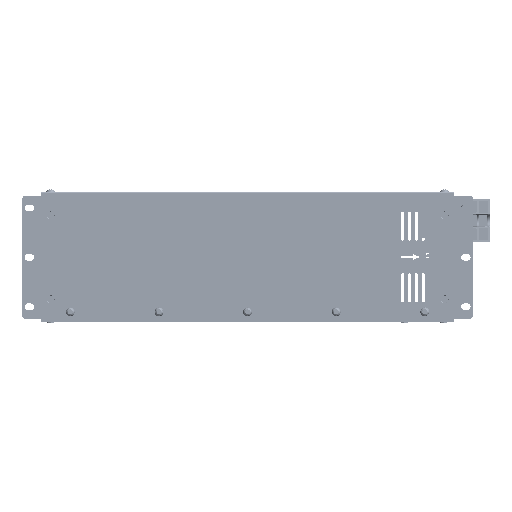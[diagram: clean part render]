
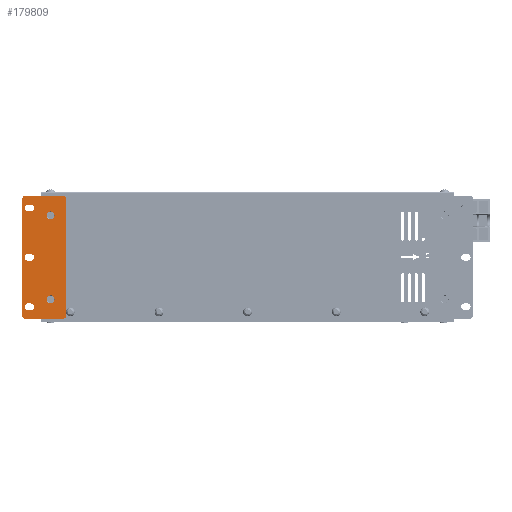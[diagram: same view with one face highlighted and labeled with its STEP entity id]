
A CAD part, top view. The second image highlights one B-rep face of the part: STEP entity #179809.
In plain terms, the highlighted planar face has unit normal (0, 0, 1).
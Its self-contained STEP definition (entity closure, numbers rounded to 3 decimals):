
#6833=FACE_BOUND('',#32945,.T.);
#6834=FACE_BOUND('',#32946,.T.);
#6835=FACE_BOUND('',#32947,.T.);
#6836=FACE_BOUND('',#32948,.T.);
#6837=FACE_BOUND('',#32949,.T.);
#11247=CIRCLE('',#192876,4.);
#11248=CIRCLE('',#192877,4.);
#11249=CIRCLE('',#192878,4.);
#11250=CIRCLE('',#192879,4.);
#11251=CIRCLE('',#192880,4.);
#11252=CIRCLE('',#192881,4.);
#11253=CIRCLE('',#192882,3.3);
#11254=CIRCLE('',#192883,3.3);
#11255=CIRCLE('',#192884,3.3);
#11256=CIRCLE('',#192885,3.3);
#11257=CIRCLE('',#192886,3.3);
#11258=CIRCLE('',#192887,3.3);
#22501=FACE_OUTER_BOUND('',#32944,.T.);
#32944=EDGE_LOOP('',(#154949,#154950,#154951,#154952,#154953,#154954,#154955,
#154956));
#32945=EDGE_LOOP('',(#154957));
#32946=EDGE_LOOP('',(#154958));
#32947=EDGE_LOOP('',(#154959,#154960,#154961,#154962));
#32948=EDGE_LOOP('',(#154963,#154964,#154965,#154966));
#32949=EDGE_LOOP('',(#154967,#154968,#154969,#154970));
#49210=LINE('',#332342,#65485);
#49211=LINE('',#332346,#65486);
#49212=LINE('',#332350,#65487);
#49213=LINE('',#332354,#65488);
#49214=LINE('',#332362,#65489);
#49215=LINE('',#332366,#65490);
#49216=LINE('',#332370,#65491);
#49217=LINE('',#332374,#65492);
#49218=LINE('',#332378,#65493);
#49219=LINE('',#332382,#65494);
#65485=VECTOR('',#235042,10.);
#65486=VECTOR('',#235045,10.);
#65487=VECTOR('',#235048,10.);
#65488=VECTOR('',#235051,10.);
#65489=VECTOR('',#235058,10.);
#65490=VECTOR('',#235061,10.);
#65491=VECTOR('',#235064,10.);
#65492=VECTOR('',#235067,10.);
#65493=VECTOR('',#235070,10.);
#65494=VECTOR('',#235073,10.);
#81475=VERTEX_POINT('',#332340);
#81476=VERTEX_POINT('',#332341);
#81477=VERTEX_POINT('',#332343);
#81478=VERTEX_POINT('',#332345);
#81479=VERTEX_POINT('',#332347);
#81480=VERTEX_POINT('',#332349);
#81481=VERTEX_POINT('',#332351);
#81482=VERTEX_POINT('',#332353);
#81483=VERTEX_POINT('',#332356);
#81484=VERTEX_POINT('',#332358);
#81485=VERTEX_POINT('',#332360);
#81486=VERTEX_POINT('',#332361);
#81487=VERTEX_POINT('',#332363);
#81488=VERTEX_POINT('',#332365);
#81489=VERTEX_POINT('',#332368);
#81490=VERTEX_POINT('',#332369);
#81491=VERTEX_POINT('',#332371);
#81492=VERTEX_POINT('',#332373);
#81493=VERTEX_POINT('',#332376);
#81494=VERTEX_POINT('',#332377);
#81495=VERTEX_POINT('',#332379);
#81496=VERTEX_POINT('',#332381);
#106028=EDGE_CURVE('',#81475,#81476,#49210,.T.);
#106029=EDGE_CURVE('',#81476,#81477,#11247,.T.);
#106030=EDGE_CURVE('',#81477,#81478,#49211,.T.);
#106031=EDGE_CURVE('',#81478,#81479,#11248,.T.);
#106032=EDGE_CURVE('',#81479,#81480,#49212,.T.);
#106033=EDGE_CURVE('',#81480,#81481,#11249,.T.);
#106034=EDGE_CURVE('',#81481,#81482,#49213,.T.);
#106035=EDGE_CURVE('',#81482,#81475,#11250,.T.);
#106036=EDGE_CURVE('',#81483,#81483,#11251,.T.);
#106037=EDGE_CURVE('',#81484,#81484,#11252,.T.);
#106038=EDGE_CURVE('',#81485,#81486,#49214,.T.);
#106039=EDGE_CURVE('',#81486,#81487,#11253,.T.);
#106040=EDGE_CURVE('',#81487,#81488,#49215,.T.);
#106041=EDGE_CURVE('',#81488,#81485,#11254,.T.);
#106042=EDGE_CURVE('',#81489,#81490,#49216,.T.);
#106043=EDGE_CURVE('',#81490,#81491,#11255,.T.);
#106044=EDGE_CURVE('',#81491,#81492,#49217,.T.);
#106045=EDGE_CURVE('',#81492,#81489,#11256,.T.);
#106046=EDGE_CURVE('',#81493,#81494,#49218,.T.);
#106047=EDGE_CURVE('',#81494,#81495,#11257,.T.);
#106048=EDGE_CURVE('',#81495,#81496,#49219,.T.);
#106049=EDGE_CURVE('',#81496,#81493,#11258,.T.);
#154949=ORIENTED_EDGE('',*,*,#106028,.T.);
#154950=ORIENTED_EDGE('',*,*,#106029,.T.);
#154951=ORIENTED_EDGE('',*,*,#106030,.T.);
#154952=ORIENTED_EDGE('',*,*,#106031,.T.);
#154953=ORIENTED_EDGE('',*,*,#106032,.T.);
#154954=ORIENTED_EDGE('',*,*,#106033,.T.);
#154955=ORIENTED_EDGE('',*,*,#106034,.T.);
#154956=ORIENTED_EDGE('',*,*,#106035,.T.);
#154957=ORIENTED_EDGE('',*,*,#106036,.T.);
#154958=ORIENTED_EDGE('',*,*,#106037,.T.);
#154959=ORIENTED_EDGE('',*,*,#106038,.T.);
#154960=ORIENTED_EDGE('',*,*,#106039,.T.);
#154961=ORIENTED_EDGE('',*,*,#106040,.T.);
#154962=ORIENTED_EDGE('',*,*,#106041,.T.);
#154963=ORIENTED_EDGE('',*,*,#106042,.T.);
#154964=ORIENTED_EDGE('',*,*,#106043,.T.);
#154965=ORIENTED_EDGE('',*,*,#106044,.T.);
#154966=ORIENTED_EDGE('',*,*,#106045,.T.);
#154967=ORIENTED_EDGE('',*,*,#106046,.T.);
#154968=ORIENTED_EDGE('',*,*,#106047,.T.);
#154969=ORIENTED_EDGE('',*,*,#106048,.T.);
#154970=ORIENTED_EDGE('',*,*,#106049,.T.);
#161251=PLANE('',#192875);
#179809=ADVANCED_FACE('',(#22501,#6833,#6834,#6835,#6836,#6837),#161251,
 .T.);
#192875=AXIS2_PLACEMENT_3D('',#332339,#235040,#235041);
#192876=AXIS2_PLACEMENT_3D('',#332344,#235043,#235044);
#192877=AXIS2_PLACEMENT_3D('',#332348,#235046,#235047);
#192878=AXIS2_PLACEMENT_3D('',#332352,#235049,#235050);
#192879=AXIS2_PLACEMENT_3D('',#332355,#235052,#235053);
#192880=AXIS2_PLACEMENT_3D('',#332357,#235054,#235055);
#192881=AXIS2_PLACEMENT_3D('',#332359,#235056,#235057);
#192882=AXIS2_PLACEMENT_3D('',#332364,#235059,#235060);
#192883=AXIS2_PLACEMENT_3D('',#332367,#235062,#235063);
#192884=AXIS2_PLACEMENT_3D('',#332372,#235065,#235066);
#192885=AXIS2_PLACEMENT_3D('',#332375,#235068,#235069);
#192886=AXIS2_PLACEMENT_3D('',#332380,#235071,#235072);
#192887=AXIS2_PLACEMENT_3D('',#332383,#235074,#235075);
#235040=DIRECTION('center_axis',(0.,0.,
1.));
#235041=DIRECTION('ref_axis',(0.,1.,0.));
#235042=DIRECTION('',(1.,0.,0.));
#235043=DIRECTION('center_axis',(0.,0.,
1.));
#235044=DIRECTION('ref_axis',(0.,-1.,0.));
#235045=DIRECTION('',(0.,1.,0.));
#235046=DIRECTION('center_axis',(0.,0.,
1.));
#235047=DIRECTION('ref_axis',(1.,0.,0.));
#235048=DIRECTION('',(-1.,0.,0.));
#235049=DIRECTION('center_axis',(0.,0.,
1.));
#235050=DIRECTION('ref_axis',(0.,1.,0.));
#235051=DIRECTION('',(0.,-1.,0.));
#235052=DIRECTION('center_axis',(0.,0.,
1.));
#235053=DIRECTION('ref_axis',(-1.,0.,0.));
#235054=DIRECTION('center_axis',(0.,0.,
-1.));
#235055=DIRECTION('ref_axis',(1.,0.,0.));
#235056=DIRECTION('center_axis',(0.,0.,
-1.));
#235057=DIRECTION('ref_axis',(1.,0.,0.));
#235058=DIRECTION('',(-1.,0.,0.));
#235059=DIRECTION('center_axis',(0.,0.,
-1.));
#235060=DIRECTION('ref_axis',(0.,-1.,0.));
#235061=DIRECTION('',(1.,0.,0.));
#235062=DIRECTION('center_axis',(0.,0.,
-1.));
#235063=DIRECTION('ref_axis',(0.,1.,0.));
#235064=DIRECTION('',(-1.,0.,0.));
#235065=DIRECTION('center_axis',(0.,0.,
-1.));
#235066=DIRECTION('ref_axis',(0.,-1.,0.));
#235067=DIRECTION('',(1.,0.,0.));
#235068=DIRECTION('center_axis',(0.,0.,
-1.));
#235069=DIRECTION('ref_axis',(0.,1.,0.));
#235070=DIRECTION('',(-1.,0.,0.));
#235071=DIRECTION('center_axis',(0.,0.,
-1.));
#235072=DIRECTION('ref_axis',(0.,-1.,0.));
#235073=DIRECTION('',(1.,0.,0.));
#235074=DIRECTION('center_axis',(0.,0.,
-1.));
#235075=DIRECTION('ref_axis',(0.,1.,0.));
#332339=CARTESIAN_POINT('Origin',(-295.526,-2.226,125.5));
#332340=CARTESIAN_POINT('',(-314.026,-64.726,125.5));
#332341=CARTESIAN_POINT('',(-277.026,-64.726,125.5));
#332342=CARTESIAN_POINT('',(-314.026,-64.726,125.5));
#332343=CARTESIAN_POINT('',(-273.026,-60.726,125.5));
#332344=CARTESIAN_POINT('Origin',(-277.026,-60.726,125.5));
#332345=CARTESIAN_POINT('',(-273.026,56.274,125.5));
#332346=CARTESIAN_POINT('',(-273.026,-60.726,125.5));
#332347=CARTESIAN_POINT('',(-277.026,60.274,125.5));
#332348=CARTESIAN_POINT('Origin',(-277.026,56.274,125.5));
#332349=CARTESIAN_POINT('',(-314.026,60.274,125.5));
#332350=CARTESIAN_POINT('',(-277.026,60.274,125.5));
#332351=CARTESIAN_POINT('',(-318.026,56.274,125.5));
#332352=CARTESIAN_POINT('Origin',(-314.026,56.274,125.5));
#332353=CARTESIAN_POINT('',(-318.026,-60.726,125.5));
#332354=CARTESIAN_POINT('',(-318.026,56.274,125.5));
#332355=CARTESIAN_POINT('Origin',(-314.026,-60.726,125.5));
#332356=CARTESIAN_POINT('',(-293.026,-44.726,125.5));
#332357=CARTESIAN_POINT('Origin',(-289.026,-44.726,125.5));
#332358=CARTESIAN_POINT('',(-293.026,40.274,125.5));
#332359=CARTESIAN_POINT('Origin',(-289.026,40.274,125.5));
#332360=CARTESIAN_POINT('',(-309.026,44.474,125.5));
#332361=CARTESIAN_POINT('',(-312.026,44.474,125.5));
#332362=CARTESIAN_POINT('',(-309.026,44.474,125.5));
#332363=CARTESIAN_POINT('',(-312.026,51.074,125.5));
#332364=CARTESIAN_POINT('Origin',(-312.026,47.774,125.5));
#332365=CARTESIAN_POINT('',(-309.026,51.074,125.5));
#332366=CARTESIAN_POINT('',(-312.026,51.074,125.5));
#332367=CARTESIAN_POINT('Origin',(-309.026,47.774,125.5));
#332368=CARTESIAN_POINT('',(-309.026,-5.526,125.5));
#332369=CARTESIAN_POINT('',(-312.026,-5.526,125.5));
#332370=CARTESIAN_POINT('',(-309.026,-5.526,125.5));
#332371=CARTESIAN_POINT('',(-312.026,1.074,125.5));
#332372=CARTESIAN_POINT('Origin',(-312.026,-2.226,125.5));
#332373=CARTESIAN_POINT('',(-309.026,1.074,125.5));
#332374=CARTESIAN_POINT('',(-312.026,1.074,125.5));
#332375=CARTESIAN_POINT('Origin',(-309.026,-2.226,125.5));
#332376=CARTESIAN_POINT('',(-309.026,-55.526,125.5));
#332377=CARTESIAN_POINT('',(-312.026,-55.526,125.5));
#332378=CARTESIAN_POINT('',(-309.026,-55.526,125.5));
#332379=CARTESIAN_POINT('',(-312.026,-48.926,125.5));
#332380=CARTESIAN_POINT('Origin',(-312.026,-52.226,125.5));
#332381=CARTESIAN_POINT('',(-309.026,-48.926,125.5));
#332382=CARTESIAN_POINT('',(-312.026,-48.926,125.5));
#332383=CARTESIAN_POINT('Origin',(-309.026,-52.226,125.5));
